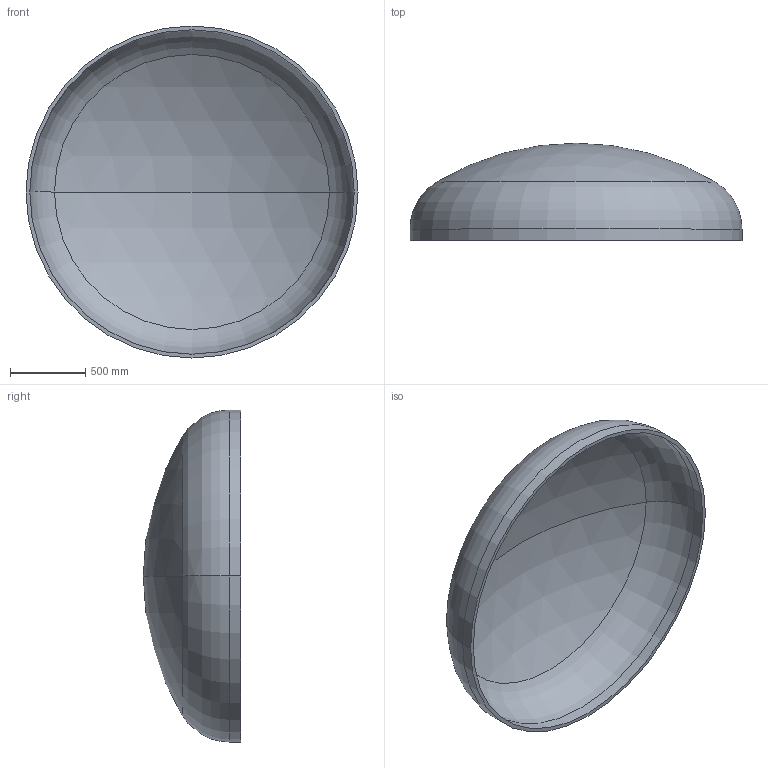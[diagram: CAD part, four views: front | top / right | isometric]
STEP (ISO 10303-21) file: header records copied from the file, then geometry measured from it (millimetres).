
FILE_DESCRIPTION (( 'STEP AP203' ), '1' );
FILE_NAME ('DIN 28013 Korbbogenform_-_Boden DIN 28013 - 2200 x 75 - I - s=25.step', '2016-07-01T14:27:15', ( '' ), ( '' ), 'SwSTEP 2.0', 'SolidWorks 2013', '' );
FILE_SCHEMA (( 'CONFIG_CONTROL_DESIGN' ));
Length unit declared in the file: millimetre
Products named in the file (1): DIN 28013 Korbbogenform_-_Boden DIN 28013 - 2200 x 75 - I - s=25
Bounding box: 2200 x 645.02 x 2200 mm (x, y, z)
Volume: 142558598.3 mm3; surface area: 11576816.8 mm2
Topology: 1 solids, 1 shells, 13 faces, 24 edges, 14 vertices
Faces by surface type: torus 4, cylinder 4, sphere 4, plane 1
Entity records: 407 total; most frequent: DIRECTION 72, CARTESIAN_POINT 52, ORIENTED_EDGE 48, AXIS2_PLACEMENT_3D 34, EDGE_CURVE 24, CIRCLE 20, VERTEX_POINT 14, EDGE_LOOP 14
